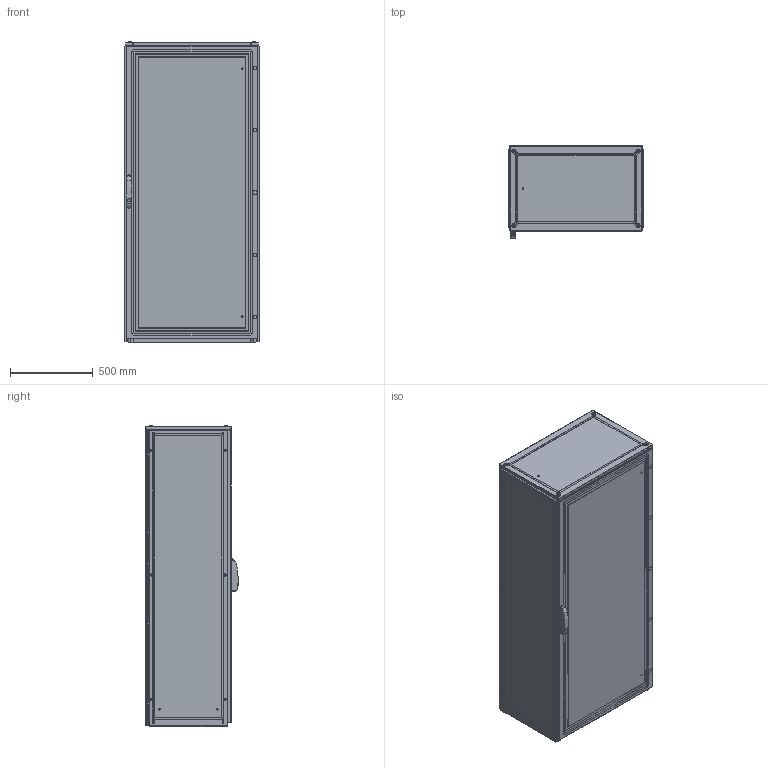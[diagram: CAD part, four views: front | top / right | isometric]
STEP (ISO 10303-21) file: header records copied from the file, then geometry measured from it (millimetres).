
FILE_DESCRIPTION(/* description */ ('STEP AP214'),/* implementation_level */ '2;1');
FILE_NAME(/* name */ 'ENUX081805PR-LOD350',/* time_stamp */ '2025-10-03T09:24:43+02:00',/* author */ ('License CC BY-ND 4.0'),/* organization */ ('CADENAS'),/* preprocessor_version */ 'ST-DEVELOPER v19.3',/* originating_system */ 'PARTsolutions',/* authorisation */ ' ');
FILE_SCHEMA (('AUTOMOTIVE_DESIGN {1 0 10303 214 3 1 1}'));
Length unit declared in the file: millimetre
Products named in the file (10): ENUX081805PR-LOD350; ENUX081805PR-LOD350_CON; ENUX081805PR-LOD350_floor1; ENUX081805PR-LOD350_floor2; Screw M12x30 architecture 350; ENUX081805PR-LOD350_side; ENUX081805PR-LOD350_top; ENUX081805PR-LOD350_back_door; ENUX081805PR-LOD350_door; ENUX081805PR-LOD350_handle
Assembly tree (15 placements, depth 2):
  ENUX081805PR-LOD350
    ENUX081805PR-LOD350_CON
    ENUX081805PR-LOD350_floor1  x2
    ENUX081805PR-LOD350_floor2  x2
    Screw M12x30 architecture 350  x4
    ENUX081805PR-LOD350_side  x2
    ENUX081805PR-LOD350_top
    ENUX081805PR-LOD350_back_door
    ENUX081805PR-LOD350_door
    ENUX081805PR-LOD350_handle
Bounding box: 812 x 557 x 1814.1 mm (x, y, z)
Volume: 19841136.9 mm3; surface area: 16379486 mm2
Topology: 15 solids, 15 shells, 1750 faces, 4923 edges, 3212 vertices
Faces by surface type: plane 864, cylinder 721, cone 77, torus 72, sphere 16
Full cylindrical faces by diameter (mm): 4.5 x132, 6 x14, 6.8 x8, 9 x9, 12 x16, 13 x4, 18 x1, 21 x4
Entity records: 47403 total; most frequent: CARTESIAN_POINT 8210, DIRECTION 8207, ORIENTED_EDGE 7704, EDGE_CURVE 3852, AXIS2_PLACEMENT_3D 2931, VERTEX_POINT 2693, LINE 2345, VECTOR 2345
